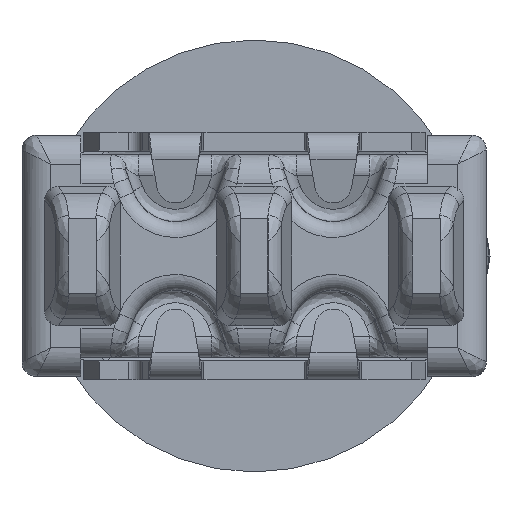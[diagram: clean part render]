
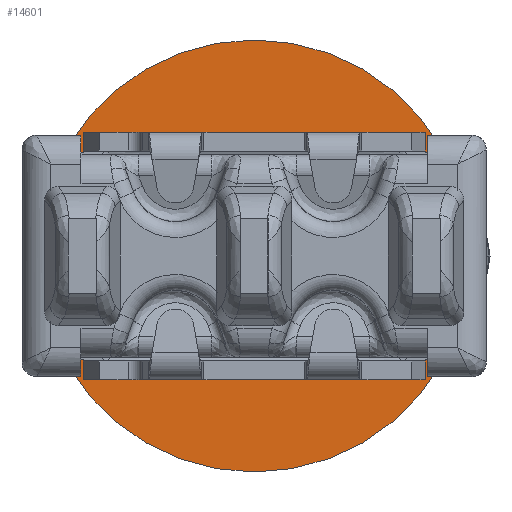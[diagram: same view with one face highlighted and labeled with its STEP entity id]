
A CAD part, front view. The second image highlights one B-rep face of the part: STEP entity #14601.
In plain terms, the highlighted planar face has unit normal (0, -1, 0).
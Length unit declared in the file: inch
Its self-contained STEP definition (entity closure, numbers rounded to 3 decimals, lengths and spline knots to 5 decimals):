
#70=CARTESIAN_POINT('',(0.,0.04,0.));
#71=DIRECTION('',(0.,1.,0.));
#72=DIRECTION('',(0.,0.,-1.));
#73=AXIS2_PLACEMENT_3D('',#70,#71,#72);
#75=CARTESIAN_POINT('',(0.,0.04,0.));
#76=DIRECTION('',(0.,-1.,0.));
#77=DIRECTION('',(0.,0.,-1.));
#78=AXIS2_PLACEMENT_3D('',#75,#76,#77);
#80=CARTESIAN_POINT('',(0.,0.04,0.));
#81=DIRECTION('',(0.,1.,0.));
#82=DIRECTION('',(0.845,0.,0.536));
#83=AXIS2_PLACEMENT_3D('',#80,#81,#82);
#85=DIRECTION('',(-1.,0.,0.));
#86=VECTOR('',#85,0.28545);
#87=CARTESIAN_POINT('',(0.14273,0.04,-0.0905));
#88=LINE('',#87,#86);
#121=CARTESIAN_POINT('',(0.,0.04,0.));
#122=DIRECTION('',(0.,1.,0.));
#123=DIRECTION('',(-0.845,0.,-0.536));
#124=AXIS2_PLACEMENT_3D('',#121,#122,#123);
#142=DIRECTION('',(1.,0.,0.));
#143=VECTOR('',#142,0.28545);
#144=CARTESIAN_POINT('',(-0.14273,0.04,0.0905));
#145=LINE('',#144,#143);
#14092=CARTESIAN_POINT('',(0.,0.04,-0.2325));
#14094=VERTEX_POINT('',#14092);
#14096=CARTESIAN_POINT('',(0.,0.04,0.2325));
#14098=VERTEX_POINT('',#14096);
#14505=CARTESIAN_POINT('',(0.14273,0.04,0.0905));
#14506=CARTESIAN_POINT('',(0.14273,0.04,-0.0905));
#14507=VERTEX_POINT('',#14505);
#14508=VERTEX_POINT('',#14506);
#14509=CARTESIAN_POINT('',(-0.14273,0.04,-0.0905));
#14510=VERTEX_POINT('',#14509);
#14511=CARTESIAN_POINT('',(-0.14273,0.04,0.0905));
#14512=VERTEX_POINT('',#14511);
#14582=CARTESIAN_POINT('',(0.,0.04,0.));
#14583=DIRECTION('',(0.,-1.,0.));
#14584=DIRECTION('',(0.,0.,-1.));
#14585=AXIS2_PLACEMENT_3D('',#14582,#14583,#14584);
#14586=PLANE('',#14585);
#14587=ORIENTED_EDGE('',*,*,#14577,.T.);
#14588=ORIENTED_EDGE('',*,*,#14561,.F.);
#14589=EDGE_LOOP('',(#14587,#14588));
#14590=FACE_OUTER_BOUND('',#14589,.F.);
#14592=ORIENTED_EDGE('',*,*,#14591,.F.);
#14594=ORIENTED_EDGE('',*,*,#14593,.F.);
#14596=ORIENTED_EDGE('',*,*,#14595,.F.);
#14598=ORIENTED_EDGE('',*,*,#14597,.F.);
#14599=EDGE_LOOP('',(#14592,#14594,#14596,#14598));
#14600=FACE_BOUND('',#14599,.F.);
#14601=ADVANCED_FACE('',(#14590,#14600),#14586,.T.);
#74=CIRCLE('',#73,0.2325);
#79=CIRCLE('',#78,0.2325);
#84=CIRCLE('',#83,0.169);
#125=CIRCLE('',#124,0.169);
#14561=EDGE_CURVE('',#14094,#14098,#79,.T.);
#14577=EDGE_CURVE('',#14094,#14098,#74,.T.);
#14591=EDGE_CURVE('',#14507,#14508,#84,.T.);
#14593=EDGE_CURVE('',#14512,#14507,#145,.T.);
#14595=EDGE_CURVE('',#14510,#14512,#125,.T.);
#14597=EDGE_CURVE('',#14508,#14510,#88,.T.);
